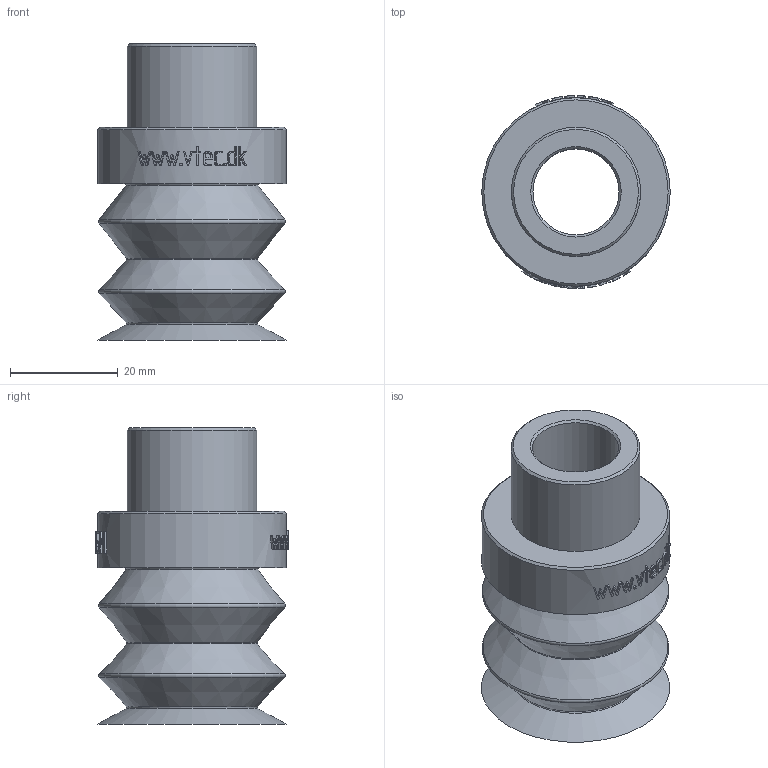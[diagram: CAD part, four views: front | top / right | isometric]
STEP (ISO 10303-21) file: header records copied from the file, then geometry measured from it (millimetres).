
FILE_DESCRIPTION( ( 'STEP AP203' ), '1' );
FILE_NAME( 'C:/撲啗紫賊-02/3D-蘋驍煎斜/Vacuum Pad/VBL series/VBL35M.stp', '2006-04-24T11:50:13', ( ' ' ), ( ' ' ), 'XStep 1.0', ' ', ' ' );
FILE_SCHEMA( ( 'CONFIG_CONTROL_DESIGN) ( )' ) );
Length unit declared in the file: metre
Products named in the file (1): 1
Bounding box: 35 x 35.8 x 55 mm (x, y, z)
Volume: 15512.5 mm3; surface area: 12301.6 mm2
Topology: 1 solids, 1 shells, 201 faces, 507 edges, 331 vertices
Faces by surface type: plane 81, bspline 74, cylinder 24, cone 13, torus 9
Full cylindrical faces by diameter (mm): 16 x1, 24 x1, 35 x1
Entity records: 10523 total; most frequent: CARTESIAN_POINT 6207, ORIENTED_EDGE 964, DIRECTION 671, EDGE_CURVE 482, VERTEX_POINT 331, EDGE_LOOP 251, AXIS2_PLACEMENT_3D 237, FACE_OUTER_BOUND 213
